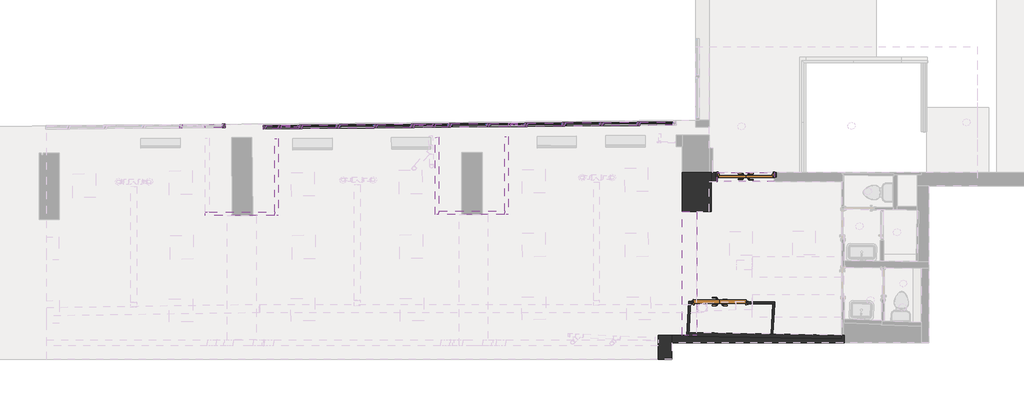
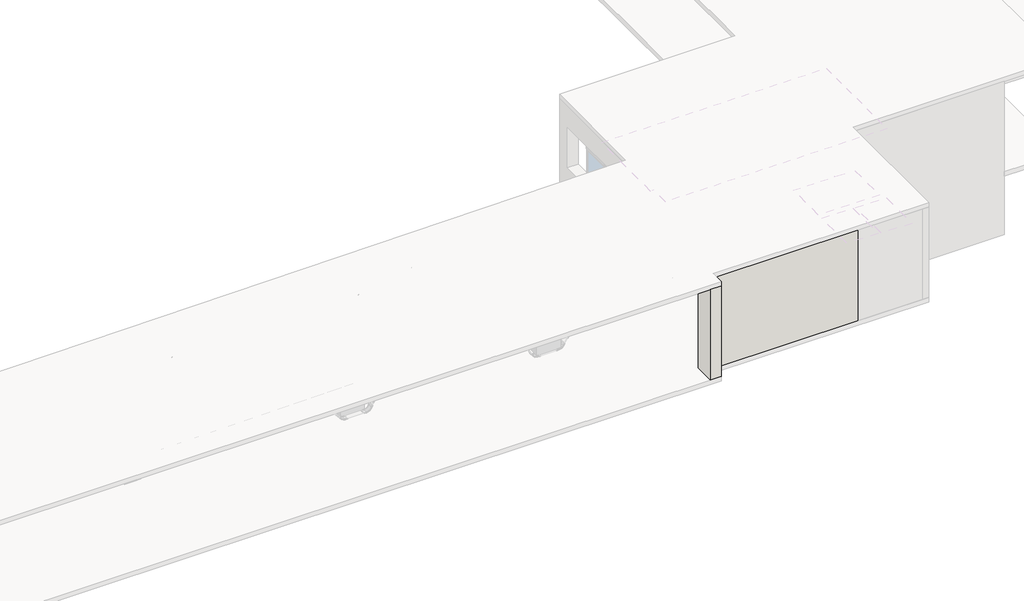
# One storey, part 2 of 8: 53 members, 16 walls, 14 windows, 2 doors.
"""IFC4 building model written with IfcOpenShell, lengths in millimetres."""

from ifc_helpers import new_model, si_unit, origin, origin_with_axes, place, context, project, spatial, polyline, outline, extrude, faceted_brep, transform, mapped, element, save
from components import door_passage_double_flush_door_passage_double_flush_2_6934cd5b, door_passage_double_flush_door_passage_double_flush_3_89525f2c, member_2f45b62e, member_f4af639a, member_0174ca3d, member_835f11f8, member_2a764257, member_7c31a16b, member_cb389cee, member_aadd5dc7, member_6a0027a9, member_22347513, member_a807efd3, member_a3112ac0, member_dbbe5297, member_24e91046, member_b640bf99, member_6078e5ce, member_e39cbc11, member_1d18c5b6, member_1c5aa84d, member_2e701646, member_dfb65aae, member_03f23a6c, member_2987343d, member_f035e081, member_cb05f148, member_f4542e0e, curtain_wall_awning_curtain_wall_awning_2_ed967b13, curtain_wall_awning_curtain_wall_awning_2_f4e35714, curtain_wall_awning_curtain_wall_awning_2_2622fc88, curtain_wall_awning_curtain_wall_awning_2_53a7fe1b, curtain_wall_awning_curtain_wall_awning_2_3c4f30b6, curtain_wall_awning_curtain_wall_awning_2_e4c29aa6, curtain_wall_awning_curtain_wall_awning_2_fe653369, curtain_wall_awning_curtain_wall_awning_2_32701f94, curtain_wall_awning_curtain_wall_awning_2_4226a363, curtain_wall_awning_curtain_wall_awning_2_41df714c, curtain_wall_awning_curtain_wall_awning_2_6c4bd446, curtain_wall_awning_curtain_wall_awning_2_f330da10, curtain_wall_awning_curtain_wall_awning_2_a3e4abaf, curtain_wall_awning_curtain_wall_awning_2_4fba72c2

model = new_model("IFC4")

# Units and contexts
model_context = context("Model", 3, world=origin())
ifc_project = project(units=[si_unit("LENGTHUNIT", "METRE", prefix="MILLI")], contexts=[model_context])

# Site, building, storey
site = spatial("IfcSite", under=ifc_project)
building = spatial("IfcBuilding", under=site)
storey = spatial("IfcBuildingStorey", under=building, Name="GFL", Elevation=0.0)

# Doors
placement = place(None, origin())
door_passage_double_flush_door_passage_double_flush_2_shape = door_passage_double_flush_door_passage_double_flush_2_6934cd5b(model_context)
element("IfcDoor", 1, ObjectType="Door-Passage-Double-Flush : Door-Passage-Double-Flush 2", at=placement, inside=storey, context=model_context, shape_type="MappedRepresentation", body=[
    mapped(door_passage_double_flush_door_passage_double_flush_2_shape, transform((-17784.9367691, 5888.4085448, 0.0), x_axis=(-1.0, 0.0, 0.0), y_axis=(0.0, -1.0, 0.0), z_axis=(0.0, 0.0, 1.0))),
])
door_passage_double_flush_door_passage_double_flush_3_shape = door_passage_double_flush_door_passage_double_flush_3_89525f2c(model_context)
element("IfcDoor", 2, ObjectType="Door-Passage-Double-Flush : Door-Passage-Double-Flush 3", at=placement, inside=storey, context=model_context, shape_type="MappedRepresentation", body=[
    mapped(door_passage_double_flush_door_passage_double_flush_3_shape, transform((-18472.9122072, 2481.1326426, 0.0), x_axis=(0.9999819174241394, -0.006013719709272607, 0.0), y_axis=(0.006013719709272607, 0.9999819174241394, 0.0), z_axis=(0.0, 0.0, 1.0))),
])

# Members
member_shape = member_2f45b62e(model_context)
element("IfcMember", 3, ObjectType="Rectangular Mullion : 2.5\" x 5\" rectangular 2", at=placement, inside=storey, context=model_context, shape_type="MappedRepresentation", body=[
    mapped(member_shape, transform((-20661.6185549, 7237.4903881, 941.5427435), x_axis=(0.0, 0.0, -1.0), y_axis=(-0.009075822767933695, 0.999958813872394, 0.0), z_axis=(0.999958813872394, 0.009075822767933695, 0.0))),
])
member_2_shape = member_f4af639a(model_context)
element("IfcMember", 4, ObjectType="Rectangular Mullion : 2.5\" x 5\" rectangular 2", at=placement, inside=storey, context=model_context, shape_type="MappedRepresentation", body=[
    mapped(member_2_shape, transform((-30180.8316749, 7151.0921385, 1519.2701837), x_axis=(-0.999958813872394, -0.009075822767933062, 0.0), y_axis=(-0.009075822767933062, 0.999958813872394, 0.0), z_axis=(0.0, 0.0, -1.0))),
])
member_3_shape = member_0174ca3d(model_context)
element("IfcMember", 5, ObjectType="Rectangular Mullion : 2.5\" x 5\" rectangular 2", at=placement, inside=storey, context=model_context, shape_type="MappedRepresentation", body=[
    mapped(member_3_shape, transform((-31599.2025384, 7182.6687257, 941.5427435), x_axis=(0.9999588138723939, 0.009075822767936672, 0.0), y_axis=(0.009075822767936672, -0.9999588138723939, 0.0), z_axis=(0.0, 0.0, -1.0))),
])
member_4_shape = member_835f11f8(model_context)
element("IfcMember", 6, ObjectType="Rectangular Mullion : 2.5\" x 5\" rectangular 2", at=placement, inside=storey, context=model_context, shape_type="MappedRepresentation", body=[
    mapped(member_4_shape, transform((-31669.0496616, 7182.0347795, 1589.1201837), x_axis=(0.0, 0.0, 1.0), y_axis=(0.009075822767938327, -0.999958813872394, 0.0), z_axis=(0.999958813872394, 0.009075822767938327, 0.0))),
])
member_5_shape = member_2a764257(model_context)
element("IfcMember", 7, ObjectType="Rectangular Mullion : 2.5\" x 5\" rectangular 2", at=placement, inside=storey, context=model_context, shape_type="MappedRepresentation", body=[
    mapped(member_5_shape, transform((-31599.2025384, 7182.6687257, 1519.2701837), x_axis=(0.9999588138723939, 0.009075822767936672, 0.0), y_axis=(0.009075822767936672, -0.9999588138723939, 0.0), z_axis=(0.0, 0.0, -1.0))),
])
member_6_shape = member_7c31a16b(model_context)
element("IfcMember", 8, ObjectType="Rectangular Mullion : 2.5\" x 5\" rectangular 2", at=placement, inside=storey, context=model_context, shape_type="MappedRepresentation", body=[
    mapped(member_6_shape, transform((-32774.1203822, 7172.0049404, 1519.2701837), x_axis=(0.9999588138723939, 0.009075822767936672, 0.0), y_axis=(0.009075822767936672, -0.9999588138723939, 0.0), z_axis=(0.0, 0.0, -1.0))),
])
member_7_shape = member_cb389cee(model_context)
element("IfcMember", 9, ObjectType="Rectangular Mullion : 2.5\" x 5\" rectangular 2", at=placement, inside=storey, context=model_context, shape_type="MappedRepresentation", body=[
    mapped(member_7_shape, transform((-30519.7054153, 7148.0164538, 1589.1201837), x_axis=(0.0, 0.0, 1.0), y_axis=(-0.00907582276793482, 0.999958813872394, 0.0), z_axis=(-0.9999588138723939, -0.009075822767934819, 0.0))),
])
member_8_shape = member_aadd5dc7(model_context)
element("IfcMember", 10, ObjectType="Rectangular Mullion : 2.5\" x 5\" rectangular 2", at=placement, inside=storey, context=model_context, shape_type="MappedRepresentation", body=[
    mapped(member_8_shape, transform((-30110.9845518, 7151.7260847, 2317.4781885), x_axis=(0.0, 0.0, 1.0), y_axis=(-0.00907582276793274, 0.999958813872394, 0.0), z_axis=(-0.9999588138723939, -0.009075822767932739, 0.0))),
])
member_9_shape = member_6a0027a9(model_context)
element("IfcMember", 11, ObjectType="Rectangular Mullion : 2.5\" x 5\" rectangular 2", at=placement, inside=storey, context=model_context, shape_type="MappedRepresentation", body=[
    mapped(member_9_shape, transform((-28642.5734764, 7165.0536723, 941.5427435), x_axis=(0.0, 0.0, -1.0), y_axis=(-0.009075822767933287, 0.999958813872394, 0.0), z_axis=(0.9999588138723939, 0.009075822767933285, 0.0))),
])
member_10_shape = member_22347513(model_context)
element("IfcMember", 12, ObjectType="Rectangular Mullion : 2.5\" x 5\" rectangular 2", at=placement, inside=storey, context=model_context, shape_type="MappedRepresentation", body=[
    mapped(member_10_shape, transform((-29626.7829389, 7156.1207938, 941.5427435), x_axis=(0.0, 0.0, -1.0), y_axis=(-0.009075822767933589, 0.999958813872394, 0.0), z_axis=(0.999958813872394, 0.009075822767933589, 0.0))),
])
element("IfcMember", 13, ObjectType="Rectangular Mullion : 2.5\" x 5\" rectangular 2", at=placement, inside=storey, context=model_context, shape_type="MappedRepresentation", body=[
    mapped(member_9_shape, transform((-29556.9358158, 7156.75474, 2317.4781885), x_axis=(0.0, 0.0, 1.0), y_axis=(-0.009075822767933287, 0.999958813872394, 0.0), z_axis=(-0.9999588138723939, -0.009075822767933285, 0.0))),
])
member_11_shape = member_a807efd3(model_context)
element("IfcMember", 14, ObjectType="Rectangular Mullion : 2.5\" x 5\" rectangular 2", at=placement, inside=storey, context=model_context, shape_type="MappedRepresentation", body=[
    mapped(member_11_shape, transform((-26655.321563, 7183.0903613, 941.5427435), x_axis=(0.0, 0.0, -1.0), y_axis=(-0.00907582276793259, 0.999958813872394, 0.0), z_axis=(0.999958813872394, 0.00907582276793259, 0.0))),
])
member_12_shape = member_a3112ac0(model_context)
element("IfcMember", 15, ObjectType="Rectangular Mullion : 2.5\" x 5\" rectangular 2", at=placement, inside=storey, context=model_context, shape_type="MappedRepresentation", body=[
    mapped(member_12_shape, transform((-27639.3147984, 7174.1594453, 941.5427435), x_axis=(0.0, 0.0, -1.0), y_axis=(-0.009075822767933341, 0.999958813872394, 0.0), z_axis=(0.9999588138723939, 0.00907582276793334, 0.0))),
])
element("IfcMember", 16, ObjectType="Rectangular Mullion : 2.5\" x 5\" rectangular 2", at=placement, inside=storey, context=model_context, shape_type="MappedRepresentation", body=[
    mapped(member_11_shape, transform((-27569.4676753, 7174.7933915, 2317.4781885), x_axis=(0.0, 0.0, 1.0), y_axis=(-0.00907582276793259, 0.999958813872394, 0.0), z_axis=(-0.999958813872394, -0.00907582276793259, 0.0))),
])
element("IfcMember", 17, ObjectType="Rectangular Mullion : 2.5\" x 5\" rectangular 2", at=placement, inside=storey, context=model_context, shape_type="MappedRepresentation", body=[
    mapped(member_12_shape, transform((-28572.7263532, 7165.6876185, 2317.4781885), x_axis=(0.0, 0.0, 1.0), y_axis=(-0.009075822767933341, 0.999958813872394, 0.0), z_axis=(-0.9999588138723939, -0.00907582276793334, 0.0))),
])
member_13_shape = member_dbbe5297(model_context)
element("IfcMember", 18, ObjectType="Rectangular Mullion : 2.5\" x 5\" rectangular 2", at=placement, inside=storey, context=model_context, shape_type="MappedRepresentation", body=[
    mapped(member_13_shape, transform((-27601.2163676, 7174.5052341, 941.5427435), x_axis=(-0.999958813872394, -0.009075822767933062, 0.0), y_axis=(-0.009075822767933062, 0.999958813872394, 0.0), z_axis=(0.0, 0.0, -1.0))),
])
element("IfcMember", 19, ObjectType="Rectangular Mullion : 2.5\" x 5\" rectangular 2", at=placement, inside=storey, context=model_context, shape_type="MappedRepresentation", body=[
    mapped(member_13_shape, transform((-28604.4750456, 7165.3994612, 941.5427435), x_axis=(-0.999958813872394, -0.009075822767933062, 0.0), y_axis=(-0.009075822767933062, 0.999958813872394, 0.0), z_axis=(0.0, 0.0, -1.0))),
])
element("IfcMember", 20, ObjectType="Rectangular Mullion : 2.5\" x 5\" rectangular 2", at=placement, inside=storey, context=model_context, shape_type="MappedRepresentation", body=[
    mapped(member_13_shape, transform((-29588.6845081, 7156.4665826, 941.5427435), x_axis=(-0.999958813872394, -0.009075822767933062, 0.0), y_axis=(-0.009075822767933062, 0.999958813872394, 0.0), z_axis=(0.0, 0.0, -1.0))),
])
element("IfcMember", 21, ObjectType="Rectangular Mullion : 2.5\" x 5\" rectangular 2", at=placement, inside=storey, context=model_context, shape_type="MappedRepresentation", body=[
    mapped(member_13_shape, transform((-21614.0793251, 7228.8456669, 941.5427435), x_axis=(-0.999958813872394, -0.009075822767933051, 0.0), y_axis=(-0.009075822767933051, 0.999958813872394, 0.0), z_axis=(0.0, 0.0, -1.0))),
])
element("IfcMember", 22, ObjectType="Rectangular Mullion : 2.5\" x 5\" rectangular 2", at=placement, inside=storey, context=model_context, shape_type="MappedRepresentation", body=[
    mapped(member_13_shape, transform((-22620.5128723, 7219.7110782, 941.5427435), x_axis=(-0.999958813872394, -0.009075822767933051, 0.0), y_axis=(-0.009075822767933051, 0.999958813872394, 0.0), z_axis=(0.0, 0.0, -1.0))),
])
element("IfcMember", 23, ObjectType="Rectangular Mullion : 2.5\" x 5\" rectangular 2", at=placement, inside=storey, context=model_context, shape_type="MappedRepresentation", body=[
    mapped(member_13_shape, transform((-23614.2469426, 7210.6917524, 941.5427435), x_axis=(-0.999958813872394, -0.009075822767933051, 0.0), y_axis=(-0.009075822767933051, 0.999958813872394, 0.0), z_axis=(0.0, 0.0, -1.0))),
])
element("IfcMember", 24, ObjectType="Rectangular Mullion : 2.5\" x 5\" rectangular 2", at=placement, inside=storey, context=model_context, shape_type="MappedRepresentation", body=[
    mapped(member_6_shape, transform((-27601.2163676, 7174.5052341, 1519.2701837), x_axis=(-0.999958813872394, -0.009075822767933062, 0.0), y_axis=(-0.009075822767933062, 0.999958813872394, 0.0), z_axis=(0.0, 0.0, -1.0))),
])
element("IfcMember", 25, ObjectType="Rectangular Mullion : 2.5\" x 5\" rectangular 2", at=placement, inside=storey, context=model_context, shape_type="MappedRepresentation", body=[
    mapped(member_6_shape, transform((-28604.4750456, 7165.3994612, 1519.2701837), x_axis=(-0.999958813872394, -0.009075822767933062, 0.0), y_axis=(-0.009075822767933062, 0.999958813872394, 0.0), z_axis=(0.0, 0.0, -1.0))),
])
element("IfcMember", 26, ObjectType="Rectangular Mullion : 2.5\" x 5\" rectangular 2", at=placement, inside=storey, context=model_context, shape_type="MappedRepresentation", body=[
    mapped(member_6_shape, transform((-29588.6845081, 7156.4665826, 1519.2701837), x_axis=(-0.999958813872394, -0.009075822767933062, 0.0), y_axis=(-0.009075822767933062, 0.999958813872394, 0.0), z_axis=(0.0, 0.0, -1.0))),
])
element("IfcMember", 27, ObjectType="Rectangular Mullion : 2.5\" x 5\" rectangular 2", at=placement, inside=storey, context=model_context, shape_type="MappedRepresentation", body=[
    mapped(member_2_shape, transform((-26585.4744398, 7183.7243076, 2317.4781885), x_axis=(0.999958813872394, 0.009075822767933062, 0.0), y_axis=(-0.009075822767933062, 0.999958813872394, 0.0), z_axis=(0.0, 0.0, 1.0))),
])
element("IfcMember", 28, ObjectType="Rectangular Mullion : 2.5\" x 5\" rectangular 2", at=placement, inside=storey, context=model_context, shape_type="MappedRepresentation", body=[
    mapped(member_3_shape, transform((-30589.5525384, 7147.3825076, 941.5427435), x_axis=(-0.999958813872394, -0.009075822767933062, 0.0), y_axis=(-0.009075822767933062, 0.999958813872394, 0.0), z_axis=(0.0, 0.0, -1.0))),
])
element("IfcMember", 29, ObjectType="Rectangular Mullion : 2.5\" x 5\" rectangular 2", at=placement, inside=storey, context=model_context, shape_type="MappedRepresentation", body=[
    mapped(member_5_shape, transform((-30589.5525384, 7147.3825076, 1519.2701837), x_axis=(-0.999958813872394, -0.009075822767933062, 0.0), y_axis=(-0.009075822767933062, 0.999958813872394, 0.0), z_axis=(0.0, 0.0, -1.0))),
])
element("IfcMember", 30, ObjectType="Rectangular Mullion : 2.5\" x 5\" rectangular 2", at=placement, inside=storey, context=model_context, shape_type="MappedRepresentation", body=[
    mapped(member_3_shape, transform((-26585.4744398, 7183.7243076, 1519.2701837), x_axis=(0.999958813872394, 0.009075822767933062, 0.0), y_axis=(-0.009075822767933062, 0.999958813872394, 0.0), z_axis=(0.0, 0.0, 1.0))),
])
member_14_shape = member_24e91046(model_context)
element("IfcMember", 31, ObjectType="Rectangular Mullion : 2.5\" x 5\" rectangular 2", at=placement, inside=storey, context=model_context, shape_type="MappedRepresentation", body=[
    mapped(member_14_shape, transform((-24085.7490785, 7206.4123063, 1519.2701837), x_axis=(-0.999958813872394, -0.009075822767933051, 0.0), y_axis=(-0.009075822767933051, 0.999958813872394, 0.0), z_axis=(0.0, 0.0, -1.0))),
])
element("IfcMember", 32, ObjectType="Rectangular Mullion : 2.5\" x 5\" rectangular 2", at=placement, inside=storey, context=model_context, shape_type="MappedRepresentation", body=[
    mapped(member_2_shape, transform((-26027.0002231, 7188.7931293, 2317.4781885), x_axis=(0.999958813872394, 0.009075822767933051, 0.0), y_axis=(-0.009075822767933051, 0.999958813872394, 0.0), z_axis=(0.0, 0.0, 1.0))),
])
member_15_shape = member_b640bf99(model_context)
element("IfcMember", 33, ObjectType="Rectangular Mullion : 2.5\" x 5\" rectangular 2", at=placement, inside=storey, context=model_context, shape_type="MappedRepresentation", body=[
    mapped(member_15_shape, transform((-26585.4744398, 7183.7243076, 2317.4781885), x_axis=(0.0, 0.0, 1.0), y_axis=(-0.009075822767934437, 0.999958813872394, 0.0), z_axis=(-0.999958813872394, -0.009075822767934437, 0.0))),
])
member_16_shape = member_6078e5ce(model_context)
element("IfcMember", 34, ObjectType="Rectangular Mullion : 2.5\" x 5\" rectangular 2", at=placement, inside=storey, context=model_context, shape_type="MappedRepresentation", body=[
    mapped(member_16_shape, transform((-24015.9019553, 7207.0462526, 2291.8788214), x_axis=(0.0, 0.0, 1.0), y_axis=(-0.009075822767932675, 0.999958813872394, 0.0), z_axis=(-0.999958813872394, -0.009075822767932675, 0.0))),
])
element("IfcMember", 35, ObjectType="Rectangular Mullion : 2.5\" x 5\" rectangular 2", at=placement, inside=storey, context=model_context, shape_type="MappedRepresentation", body=[
    mapped(member_shape, transform((-21582.3306328, 7229.1338243, 2291.8788214), x_axis=(0.0, 0.0, 1.0), y_axis=(-0.009075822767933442, 0.999958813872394, 0.0), z_axis=(-0.999958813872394, -0.009075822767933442, 0.0))),
])
member_17_shape = member_e39cbc11(model_context)
element("IfcMember", 36, ObjectType="Rectangular Mullion : 2.5\" x 5\" rectangular 2", at=placement, inside=storey, context=model_context, shape_type="MappedRepresentation", body=[
    mapped(member_17_shape, transform((-20591.7714318, 7238.1243343, 2291.8788214), x_axis=(0.0, 0.0, 1.0), y_axis=(-0.009075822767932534, 0.999958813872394, 0.0), z_axis=(-0.999958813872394, -0.009075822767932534, 0.0))),
])
member_18_shape = member_1d18c5b6(model_context)
element("IfcMember", 37, ObjectType="Rectangular Mullion : 2.5\" x 5\" rectangular 2", at=placement, inside=storey, context=model_context, shape_type="MappedRepresentation", body=[
    mapped(member_18_shape, transform((-21652.1777559, 7228.4998781, 941.5427435), x_axis=(0.0, 0.0, -1.0), y_axis=(-0.009075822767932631, 0.999958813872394, 0.0), z_axis=(0.9999588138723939, 0.00907582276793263, 0.0))),
])
member_19_shape = member_1c5aa84d(model_context)
element("IfcMember", 38, ObjectType="Rectangular Mullion : 2.5\" x 5\" rectangular 2", at=placement, inside=storey, context=model_context, shape_type="MappedRepresentation", body=[
    mapped(member_19_shape, transform((-22658.6113031, 7219.3652893, 941.5427435), x_axis=(0.0, 0.0, -1.0), y_axis=(-0.009075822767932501, 0.999958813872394, 0.0), z_axis=(0.9999588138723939, 0.0090758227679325, 0.0))),
])
element("IfcMember", 39, ObjectType="Rectangular Mullion : 2.5\" x 5\" rectangular 2", at=placement, inside=storey, context=model_context, shape_type="MappedRepresentation", body=[
    mapped(member_18_shape, transform((-22588.76418, 7219.9992356, 2291.8788214), x_axis=(0.0, 0.0, 1.0), y_axis=(-0.009075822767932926, 0.999958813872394, 0.0), z_axis=(-0.9999588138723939, -0.009075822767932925, 0.0))),
])
element("IfcMember", 40, ObjectType="Rectangular Mullion : 2.5\" x 5\" rectangular 2", at=placement, inside=storey, context=model_context, shape_type="MappedRepresentation", body=[
    mapped(member_19_shape, transform((-23582.4982502, 7210.9799098, 2291.8788214), x_axis=(0.0, 0.0, 1.0), y_axis=(-0.0090758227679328, 0.999958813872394, 0.0), z_axis=(-0.999958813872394, -0.0090758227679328, 0.0))),
])
member_20_shape = member_2e701646(model_context)
element("IfcMember", 41, ObjectType="Rectangular Mullion : 2.5\" x 5\" rectangular 2", at=placement, inside=storey, context=model_context, shape_type="MappedRepresentation", body=[
    mapped(member_20_shape, transform((-23652.3453734, 7210.3459636, 941.5427435), x_axis=(0.0, 0.0, -1.0), y_axis=(-0.009075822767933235, 0.999958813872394, 0.0), z_axis=(0.9999588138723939, 0.009075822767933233, 0.0))),
])
member_21_shape = member_dfb65aae(model_context)
element("IfcMember", 42, ObjectType="Rectangular Mullion : 2.5\" x 5\" rectangular 2", at=placement, inside=storey, context=model_context, shape_type="MappedRepresentation", body=[
    mapped(member_21_shape, transform((-24585.5318753, 7201.8761794, 1589.1201837), x_axis=(0.0, 0.0, 1.0), y_axis=(-0.009075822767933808, 0.999958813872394, 0.0), z_axis=(-0.9999588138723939, -0.009075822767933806, 0.0))),
])
member_22_shape = member_03f23a6c(model_context)
element("IfcMember", 43, ObjectType="Rectangular Mullion : 2.5\" x 5\" rectangular 2", at=placement, inside=storey, context=model_context, shape_type="MappedRepresentation", body=[
    mapped(member_22_shape, transform((-26027.0002231, 7188.7931293, 1589.1201837), x_axis=(0.0, 0.0, 1.0), y_axis=(-0.009075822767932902, 0.999958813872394, 0.0), z_axis=(-0.999958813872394, -0.009075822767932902, 0.0))),
])
member_23_shape = member_2987343d(model_context)
element("IfcMember", 44, ObjectType="Rectangular Mullion : 2.5\" x 5\" rectangular 2", at=placement, inside=storey, context=model_context, shape_type="MappedRepresentation", body=[
    mapped(member_23_shape, transform((-25607.6147158, 7192.5995546, 1589.1201837), x_axis=(0.0, 0.0, 1.0), y_axis=(-0.00907582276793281, 0.999958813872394, 0.0), z_axis=(-0.999958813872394, -0.00907582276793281, 0.0))),
])
member_24_shape = member_f035e081(model_context)
element("IfcMember", 45, ObjectType="Rectangular Mullion : 2.5\" x 5\" rectangular 2", at=placement, inside=storey, context=model_context, shape_type="MappedRepresentation", body=[
    mapped(member_24_shape, transform((-25677.4618389, 7191.9656084, 941.5427435), x_axis=(0.0, 0.0, -1.0), y_axis=(-0.0090758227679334, 0.999958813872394, 0.0), z_axis=(0.999958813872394, 0.0090758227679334, 0.0))),
])
element("IfcMember", 46, ObjectType="Rectangular Mullion : 2.5\" x 5\" rectangular 2", at=placement, inside=storey, context=model_context, shape_type="MappedRepresentation", body=[
    mapped(member_23_shape, transform((-24655.3789984, 7201.2422332, 941.5427435), x_axis=(0.0, 0.0, -1.0), y_axis=(-0.009075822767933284, 0.999958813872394, 0.0), z_axis=(0.9999588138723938, 0.009075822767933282, 0.0))),
])
member_25_shape = member_cb05f148(model_context)
element("IfcMember", 47, ObjectType="Rectangular Mullion : 2.5\" x 5\" rectangular 2", at=placement, inside=storey, context=model_context, shape_type="MappedRepresentation", body=[
    mapped(member_25_shape, transform((-21614.0793251, 7228.8456669, 1519.2701837), x_axis=(-0.999958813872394, -0.009075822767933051, 0.0), y_axis=(-0.009075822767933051, 0.999958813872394, 0.0), z_axis=(0.0, 0.0, -1.0))),
])
element("IfcMember", 48, ObjectType="Rectangular Mullion : 2.5\" x 5\" rectangular 2", at=placement, inside=storey, context=model_context, shape_type="MappedRepresentation", body=[
    mapped(member_25_shape, transform((-22620.5128723, 7219.7110782, 1519.2701837), x_axis=(-0.999958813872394, -0.009075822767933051, 0.0), y_axis=(-0.009075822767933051, 0.999958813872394, 0.0), z_axis=(0.0, 0.0, -1.0))),
])
element("IfcMember", 49, ObjectType="Rectangular Mullion : 2.5\" x 5\" rectangular 2", at=placement, inside=storey, context=model_context, shape_type="MappedRepresentation", body=[
    mapped(member_25_shape, transform((-23614.2469426, 7210.6917524, 1519.2701837), x_axis=(-0.999958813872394, -0.009075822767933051, 0.0), y_axis=(-0.009075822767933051, 0.999958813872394, 0.0), z_axis=(0.0, 0.0, -1.0))),
])
element("IfcMember", 50, ObjectType="Rectangular Mullion : 2.5\" x 5\" rectangular 2", at=placement, inside=storey, context=model_context, shape_type="MappedRepresentation", body=[
    mapped(member_25_shape, transform((-20623.5201241, 7237.8361769, 1519.2701837), x_axis=(-0.999958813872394, -0.009075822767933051, 0.0), y_axis=(-0.009075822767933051, 0.999958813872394, 0.0), z_axis=(0.0, 0.0, -1.0))),
])
element("IfcMember", 51, ObjectType="Rectangular Mullion : 2.5\" x 5\" rectangular 2", at=placement, inside=storey, context=model_context, shape_type="MappedRepresentation", body=[
    mapped(member_13_shape, transform((-20623.5201241, 7237.8361769, 941.5427435), x_axis=(-0.999958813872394, -0.009075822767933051, 0.0), y_axis=(-0.009075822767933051, 0.999958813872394, 0.0), z_axis=(0.0, 0.0, -1.0))),
])
element("IfcMember", 52, ObjectType="Rectangular Mullion : 2.5\" x 5\" rectangular 2", at=placement, inside=storey, context=model_context, shape_type="MappedRepresentation", body=[
    mapped(member_13_shape, transform((-25639.3634081, 7192.3113973, 941.5427435), x_axis=(-0.999958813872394, -0.009075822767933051, 0.0), y_axis=(-0.009075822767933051, 0.999958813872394, 0.0), z_axis=(0.0, 0.0, -1.0))),
])
element("IfcMember", 53, ObjectType="Rectangular Mullion : 2.5\" x 5\" rectangular 2", at=placement, inside=storey, context=model_context, shape_type="MappedRepresentation", body=[
    mapped(member_13_shape, transform((-24617.2805676, 7201.588022, 941.5427435), x_axis=(-0.999958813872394, -0.009075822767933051, 0.0), y_axis=(-0.009075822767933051, 0.999958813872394, 0.0), z_axis=(0.0, 0.0, -1.0))),
])
member_26_shape = member_f4542e0e(model_context)
element("IfcMember", 54, ObjectType="Rectangular Mullion : 2.5\" x 5\" rectangular 2", at=placement, inside=storey, context=model_context, shape_type="MappedRepresentation", body=[
    mapped(member_26_shape, transform((-25639.3634081, 7192.3113973, 1519.2701837), x_axis=(-0.999958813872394, -0.009075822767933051, 0.0), y_axis=(-0.009075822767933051, 0.999958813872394, 0.0), z_axis=(0.0, 0.0, -1.0))),
])
element("IfcMember", 55, ObjectType="Rectangular Mullion : 2.5\" x 5\" rectangular 2", at=placement, inside=storey, context=model_context, shape_type="MappedRepresentation", body=[
    mapped(member_26_shape, transform((-24617.2805676, 7201.588022, 1519.2701837), x_axis=(-0.999958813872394, -0.009075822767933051, 0.0), y_axis=(-0.009075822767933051, 0.999958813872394, 0.0), z_axis=(0.0, 0.0, -1.0))),
])

# Walls
element("IfcWall", 56, ObjectType="Generic - 14\"", at=placement, inside=storey, context=model_context, shape_type="Brep", body=[
    faceted_brep([(-20105.8145713, 1624.4954184, 0.0), (-20105.8145713, 1340.5491383, 0.0), (-20105.8145713, 984.9491383, 0.0), (-20105.8145713, 984.9491383, 3028.95), (-20105.8145713, 1340.5491383, 3028.95), (-20105.8145713, 1624.4954184, 3028.95), (-19750.2145713, 1624.4954184, 0.0), (-19750.2145713, 1624.4954184, 3028.95), (-19750.2145713, 1421.2954184, 3028.95), (-19750.2145713, 984.9491383, 3028.95), (-19750.2145713, 984.9491383, 0.0), (-19750.2145713, 1421.2954184, 0.0)], [[[0, 1, 2, 3, 4, 5]], [[6, 7, 8, 9, 10, 11]], [[2, 1, 0, 6, 11, 10]], [[0, 5, 7, 6]], [[3, 2, 10, 9]], [[5, 4, 3, 9, 8, 7]]]),
])
element("IfcWall", 57, ObjectType="Generic - 15\"", at=placement, inside=storey, context=model_context, shape_type="Brep", body=[
    faceted_brep([(-19466.9525663, 4902.0245008, 2457.2688434), (-19466.9525663, 1624.4954184, 2457.2688434), (-19466.9525663, 1624.4954184, 3028.95), (-19466.9525663, 4902.0245008, 3028.95), (-19085.9525663, 4902.0245008, 2457.2688434), (-19085.9525663, 4902.0245008, 3028.95), (-19085.9525663, 1624.4954184, 3028.95), (-19085.9525663, 1624.4954184, 2457.2688434), (-19292.3033124, 1624.4954184, 2457.2688434), (-19343.1730276, 1624.4954184, 2457.2688434), (-19292.3033124, 1624.4954184, 3028.95), (-19304.0439365, 1624.4954184, 3028.95), (-19343.1730276, 1624.4954184, 3028.95)], [[[0, 1, 2, 3]], [[4, 5, 6, 7]], [[1, 0, 4, 7, 8, 9]], [[0, 3, 5, 4]], [[2, 1, 9, 8, 7, 6, 10, 11, 12]], [[3, 2, 12, 11, 10, 6, 5]]]),
])
element("IfcWall", 58, ObjectType="Generic - 2\"", at=placement, inside=storey, context=model_context, shape_type="Brep", body=[
    faceted_brep([(-19296.3550703, 2517.8352609, 0.0), (-19344.0224686, 1608.2871185, 0.0), (-19344.0224686, 1608.2871185, 3028.95), (-19343.1730276, 1624.4954184, 3028.95), (-19343.1730276, 1624.4954184, 2457.2688434), (-19296.3550703, 2517.8352609, 2457.2688434), (-19293.2920882, 1605.628452, 0.0), (-19248.1629072, 2466.7445228, 0.0), (-19245.5013827, 2517.5294355, 0.0), (-19245.5013827, 2517.5294355, 2259.6275631), (-19245.5013827, 2517.5294355, 2457.2688434), (-19292.3033124, 1624.4954184, 2457.2688434), (-19292.3033124, 1624.4954184, 3028.95), (-19293.2920882, 1605.628452, 3028.95), (-19304.0439365, 1624.4954184, 3028.95)], [[[0, 1, 2, 3, 4, 5]], [[6, 7, 8, 9, 10, 11, 12, 13]], [[1, 0, 8, 7, 6]], [[2, 1, 6, 13]], [[4, 11, 10, 5]], [[11, 4, 3, 14, 12]], [[8, 0, 5, 10, 9]], [[2, 13, 12, 14, 3]]]),
])
element("IfcWall", 59, ObjectType="Generic - 2\"", at=placement, inside=storey, context=model_context, shape_type="SweptSolid", body=[
    extrude(outline(polyline([(-17070.9385364, 2453.651069), (-17020.0848489, 2453.3452436), (-17061.9257842, 1654.9726376), (-17112.7509001, 1655.8236422), (-17070.9385364, 2453.651069)])), origin_with_axes(), (0.0, 0.0, 1.0), 3028.95),
])
element("IfcWall", 60, ObjectType="Generic - 2\"", at=placement, inside=storey, context=model_context, shape_type="Brep", body=[
    faceted_brep([(-17018.9068351, 2453.3381592, 0.0), (-17018.9068351, 2453.3381592, 2259.6275631), (-19248.1629072, 2466.7445228, 2259.6275631), (-19248.1629072, 2466.7445228, 0.0), (-19203.2635637, 2466.4745059, 0.0), (-19203.2635637, 2466.4745059, 2012.95), (-17742.7899734, 2457.6914683, 2012.95), (-17742.7899734, 2457.6914683, 0.0), (-17070.9385364, 2453.651069, 0.0), (-17020.0848489, 2453.3452436, 0.0), (-17018.6013381, 2504.1372406, 2259.6275631), (-17018.6013381, 2504.1372406, 0.0), (-17742.4844764, 2508.4905497, 0.0), (-17742.4844764, 2508.4905497, 2012.95), (-19202.9580668, 2517.2735873, 2012.95), (-19202.9580668, 2517.2735873, 0.0), (-19245.5013827, 2517.5294355, 0.0), (-19245.5013827, 2517.5294355, 2259.6275631)], [[[0, 1, 2, 3, 4, 5, 6, 7, 8, 9]], [[10, 11, 12, 13, 14, 15, 16, 17]], [[11, 0, 9, 8, 7, 12]], [[3, 16, 15, 4]], [[1, 0, 11, 10]], [[2, 1, 10, 17]], [[6, 13, 12, 7]], [[13, 6, 5, 14]], [[14, 5, 4, 15]], [[16, 3, 2, 17]]]),
])
element("IfcWall", 61, ObjectType="Generic - 4\"", at=placement, inside=storey, context=model_context, shape_type="Brep", body=[
    faceted_brep([(-19304.6062943, 1590.9093495, 0.0), (-15241.7145713, 1522.8811774, 0.0), (-15241.7145713, 1522.8811774, 3028.95), (-19304.6062943, 1590.9093495, 3028.95), (-19302.9053645, 1692.4951105, 0.0), (-19302.9053645, 1692.4951105, 3028.95), (-17112.7509001, 1655.8236422, 3028.95), (-17061.9257842, 1654.9726376, 3028.95), (-15241.7145713, 1624.4954184, 3028.95), (-15241.7145713, 1624.4954184, 0.0), (-17061.9257842, 1654.9726376, 0.0), (-17112.7509001, 1655.8236422, 0.0), (-19304.0439365, 1624.4954184, 0.0), (-19304.0439365, 1624.4954184, 3028.95)], [[[0, 1, 2, 3]], [[4, 5, 6, 7, 8, 9, 10, 11]], [[1, 0, 12, 4, 11, 10, 9]], [[0, 3, 13, 5, 4, 12]], [[2, 1, 9, 8]], [[3, 2, 8, 7, 6, 5, 13]]]),
])
element("IfcWall", 62, ObjectType="Generic - 4\"", at=placement, inside=storey, context=model_context, shape_type="Brep", body=[
    faceted_brep([(-24184.594848, 6894.3578471, 1589.1201837), (-24184.594848, 4824.8409599, 1589.1201837), (-24184.594848, 4824.8409599, 3028.95), (-24184.594848, 4926.4409599, 3028.95), (-24184.594848, 6894.3578471, 3028.95), (-24082.994848, 6895.2799886, 1589.1201837), (-24082.994848, 6895.2799886, 3028.95), (-24082.994848, 4824.8409599, 3028.95), (-24082.994848, 4824.8409599, 1589.1201837)], [[[0, 1, 2, 3, 4]], [[5, 6, 7, 8]], [[1, 0, 5, 8]], [[2, 1, 8, 7]], [[0, 4, 6, 5]], [[4, 3, 2, 7, 6]]]),
])
element("IfcWall", 63, ObjectType="Generic - 4\"", at=placement, inside=storey, context=model_context, shape_type="Brep", body=[
    faceted_brep([(-26026.5019679, 6877.6403359, 1589.1201837), (-26026.5019679, 4824.8409599, 1589.1201837), (-26026.5019679, 4824.8409599, 3028.95), (-26026.5019679, 6877.6403359, 3028.95), (-25924.9019679, 6878.5624775, 1589.1201837), (-25924.9019679, 6878.5624775, 3028.95), (-25924.9019679, 4926.4409599, 3028.95), (-25924.9019679, 4824.8409599, 3028.95), (-25924.9019679, 4824.8409599, 1589.1201837), (-26024.1763308, 6877.6614439, 1589.1201837)], [[[0, 1, 2, 3]], [[4, 5, 6, 7, 8]], [[1, 0, 9, 4, 8]], [[2, 1, 8, 7]], [[0, 3, 5, 4, 9]], [[3, 2, 7, 6, 5]]]),
])
element("IfcWall", 64, ObjectType="Generic - 4\"", at=placement, inside=storey, context=model_context, shape_type="Brep", body=[
    faceted_brep([(-25924.9019679, 4824.8409599, 1536.9976562), (-24184.594848, 4824.8409599, 1536.9976562), (-24184.594848, 4824.8409599, 1589.1201837), (-24184.594848, 4824.8409599, 3028.95), (-25924.9019679, 4824.8409599, 3028.95), (-25924.9019679, 4824.8409599, 1589.1201837), (-25924.9019679, 4926.4409599, 1536.9976562), (-25924.9019679, 4926.4409599, 3028.95), (-24184.594848, 4926.4409599, 3028.95), (-24184.594848, 4926.4409599, 1536.9976562)], [[[0, 1, 2, 3, 4, 5]], [[6, 7, 8, 9]], [[1, 0, 6, 9]], [[3, 2, 1, 9, 8]], [[0, 5, 4, 7, 6]], [[4, 3, 8, 7]]]),
])
element("IfcWall", 65, ObjectType="Generic - 4\"", at=placement, inside=storey, context=model_context, shape_type="Brep", body=[
    faceted_brep([(-30282.427881, 6839.0127157, 1589.1201837), (-30282.427881, 4901.0286619, 1589.1201837), (-30282.427881, 4799.4286619, 1589.1201837), (-30282.427881, 4799.4286619, 3028.95), (-30282.427881, 4901.0286619, 3028.95), (-30282.427881, 6839.0127157, 3028.95), (-30180.827881, 6839.9348573, 1589.1201837), (-30180.827881, 6839.9348573, 3028.95), (-30180.827881, 4799.4286619, 3028.95), (-30180.827881, 4799.4286619, 1589.1201837)], [[[0, 1, 2, 3, 4, 5]], [[6, 7, 8, 9]], [[2, 1, 0, 6, 9]], [[3, 2, 9, 8]], [[0, 5, 7, 6]], [[5, 4, 3, 8, 7]]]),
])
element("IfcWall", 66, ObjectType="Generic - 4\"", at=placement, inside=storey, context=model_context, shape_type="Brep", body=[
    faceted_brep([(-32118.4796389, 4799.4286619, 1589.1201837), (-30282.427881, 4799.4286619, 1589.1201837), (-30282.427881, 4799.4286619, 3028.95), (-32118.4796389, 4799.4286619, 3028.95), (-32118.4796389, 4901.0286619, 1589.1201837), (-32118.4796389, 4901.0286619, 3028.95), (-32016.8796389, 4901.0286619, 3028.95), (-30282.427881, 4901.0286619, 3028.95), (-30282.427881, 4901.0286619, 1589.1201837), (-32016.8796389, 4901.0286619, 1589.1201837)], [[[0, 1, 2, 3]], [[4, 5, 6, 7, 8, 9]], [[1, 0, 4, 9, 8]], [[2, 1, 8, 7]], [[0, 3, 5, 4]], [[3, 2, 7, 6, 5]]]),
])
element("IfcWall", 67, ObjectType="Generic - 5\"", at=placement, inside=storey, context=model_context, shape_type="SweptSolid", body=[
    extrude(outline(polyline([(-18597.7367691, 5818.5585448), (-18597.7367691, 5945.5585448), (-18540.5867691, 5945.5585448), (-18540.5867691, 5818.5585448), (-18597.7367691, 5818.5585448)])), origin_with_axes(), (0.0, 0.0, 1.0), 2006.6),
    extrude(outline(polyline([(-16972.1367691, 5945.5585448), (-16972.1367691, 5818.5585448), (-17029.2867691, 5818.5585448), (-17029.2867691, 5945.5585448), (-16972.1367691, 5945.5585448)])), origin_with_axes(), (0.0, 0.0, 1.0), 2006.6),
])
element("IfcWall", 68, ObjectType="Generic - 8\"", at=placement, inside=storey, context=model_context, shape_type="Brep", body=[
    faceted_brep([(-19750.2145713, 1421.2954184, 0.0), (-15165.5145713, 1421.2954184, 0.0), (-15165.5145713, 1421.2954184, 3028.95), (-19750.2145713, 1421.2954184, 3028.95), (-15165.5145713, 1624.4954184, 3028.95), (-15165.5145713, 1624.4954184, 0.0), (-15190.9145713, 1624.4954184, 0.0), (-15241.7145713, 1624.4954184, 0.0), (-15241.7145713, 1624.4954184, 3028.95), (-15190.9145713, 1624.4954184, 3028.95), (-19750.2145713, 1624.4954184, 0.0), (-19750.2145713, 1624.4954184, 3028.95), (-19466.9525663, 1624.4954184, 3028.95), (-19304.0439365, 1624.4954184, 3028.95), (-19304.0439365, 1624.4954184, 0.0), (-19304.6062943, 1590.9093495, 0.0), (-15241.7145713, 1522.8811774, 0.0), (-15241.7145713, 1522.8811774, 3028.95), (-19304.6062943, 1590.9093495, 3028.95)], [[[0, 1, 2, 3]], [[4, 5, 6, 7, 8, 9]], [[10, 11, 12, 13, 14]], [[1, 0, 10, 14, 15, 16, 7, 6, 5]], [[0, 3, 11, 10]], [[2, 1, 5, 4]], [[17, 16, 15, 18]], [[18, 15, 14, 13]], [[16, 17, 8, 7]], [[3, 2, 4, 9, 8, 17, 18, 13, 12, 11]]]),
])
element("IfcWall", 69, ObjectType="Generic - 9.5\"", at=placement, inside=storey, context=model_context, shape_type="Brep", body=[
    faceted_brep([(-18704.9525663, 5704.2585448, 0.0), (-18540.5867691, 5704.2585448, 0.0), (-18540.5867691, 5704.2585448, 2012.95), (-18546.9367691, 5704.2585448, 2012.95), (-18546.9367691, 5704.2585448, 3028.95), (-18704.9525663, 5704.2585448, 3028.95), (-18704.9525663, 5945.5585448, 0.0), (-18704.9525663, 5945.5585448, 3028.95), (-18654.1525663, 5945.5585448, 3028.95), (-18546.9367691, 5945.5585448, 3028.95), (-18546.9367691, 5945.5585448, 2012.95), (-18540.5867691, 5945.5585448, 2012.95), (-18540.5867691, 5945.5585448, 2006.6), (-18597.7367691, 5945.5585448, 2006.6), (-18597.7367691, 5945.5585448, 0.0), (-18654.1525663, 5945.5585448, 0.0), (-18597.7367691, 5818.5585448, 0.0), (-18540.5867691, 5818.5585448, 0.0), (-18540.5867691, 5818.5585448, 2006.6), (-18597.7367691, 5818.5585448, 2006.6)], [[[0, 1, 2, 3, 4, 5]], [[6, 7, 8, 9, 10, 11, 12, 13, 14, 15]], [[1, 0, 6, 15, 14, 16, 17]], [[1, 17, 18, 12, 11, 2]], [[0, 5, 7, 6]], [[16, 19, 18, 17]], [[19, 13, 12, 18]], [[19, 16, 14, 13]], [[3, 10, 9, 4]], [[10, 3, 2, 11]], [[7, 5, 4, 9, 8]]]),
])
element("IfcWall", 70, ObjectType="Generic - 9.5\"", at=placement, inside=storey, context=model_context, shape_type="Brep", body=[
    faceted_brep([(-18546.9367691, 5704.2585448, 2012.95), (-18540.5867691, 5704.2585448, 2012.95), (-17029.2867691, 5704.2585448, 2012.95), (-17022.9367691, 5704.2585448, 2012.95), (-17022.9367691, 5704.2585448, 3028.95), (-18546.9367691, 5704.2585448, 3028.95), (-18546.9367691, 5945.5585448, 2012.95), (-18546.9367691, 5945.5585448, 3028.95), (-17022.9367691, 5945.5585448, 3028.95), (-17022.9367691, 5945.5585448, 2012.95), (-17029.2867691, 5945.5585448, 2012.95), (-18540.5867691, 5945.5585448, 2012.95)], [[[0, 1, 2, 3, 4, 5]], [[6, 7, 8, 9, 10, 11]], [[3, 2, 1, 0, 6, 11, 10, 9]], [[4, 3, 9, 8]], [[0, 5, 7, 6]], [[5, 4, 8, 7]]]),
])
element("IfcWall", 71, ObjectType="Generic -26\"", at=placement, inside=storey, context=model_context, shape_type="Brep", body=[
    faceted_brep([(-19466.9525663, 5945.5585448, 0.0), (-19466.9525663, 4902.0245008, 0.0), (-19466.9525663, 4902.0245008, 3028.95), (-19466.9525663, 5945.5585448, 3028.95), (-18704.9525663, 5945.5585448, 0.0), (-18704.9525663, 5945.5585448, 3028.95), (-18704.9525663, 5704.2585448, 3028.95), (-18704.9525663, 4902.0245008, 3028.95), (-18704.9525663, 4902.0245008, 0.0), (-18704.9525663, 5704.2585448, 0.0), (-18755.7525663, 5945.5585448, 0.0), (-18755.7525663, 5945.5585448, 3028.95)], [[[0, 1, 2, 3]], [[4, 5, 6, 7, 8, 9]], [[1, 0, 10, 4, 9, 8]], [[2, 1, 8, 7]], [[0, 3, 11, 5, 4, 10]], [[3, 2, 7, 6, 5, 11]]]),
])

# Windows
curtain_wall_awning_curtain_wall_awning_2_shape = curtain_wall_awning_curtain_wall_awning_2_ed967b13(model_context)
element("IfcWindow", 72, ObjectType="Curtain Wall-Awning : Curtain Wall-Awning 2", at=placement, inside=storey, context=model_context, shape_type="MappedRepresentation", body=[
    mapped(curtain_wall_awning_curtain_wall_awning_2_shape, transform((-29868.8837453, 7153.9234392, 1519.2701837), x_axis=(-0.999958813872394, -0.009075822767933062, 0.0), y_axis=(0.009075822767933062, -0.999958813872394, 0.0), z_axis=(0.0, 0.0, 1.0))),
])
curtain_wall_awning_curtain_wall_awning_2_2_shape = curtain_wall_awning_curtain_wall_awning_2_f4e35714(model_context)
element("IfcWindow", 73, ObjectType="Curtain Wall-Awning : Curtain Wall-Awning 2", at=placement, inside=storey, context=model_context, shape_type="MappedRepresentation", body=[
    mapped(curtain_wall_awning_curtain_wall_awning_2_2_shape, transform((-30073.2441771, 7152.0686238, 1011.3927435), x_axis=(-0.999958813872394, -0.009075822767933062, 0.0), y_axis=(0.009075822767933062, -0.999958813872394, 0.0), z_axis=(0.0, 0.0, 1.0))),
])
curtain_wall_awning_curtain_wall_awning_2_3_shape = curtain_wall_awning_curtain_wall_awning_2_2622fc88(model_context)
element("IfcWindow", 74, ObjectType="Curtain Wall-Awning : Curtain Wall-Awning 2", at=placement, inside=storey, context=model_context, shape_type="MappedRepresentation", body=[
    mapped(curtain_wall_awning_curtain_wall_awning_2_3_shape, transform((-29099.7546461, 7160.9042061, 1011.3927435), x_axis=(-0.999958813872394, -0.009075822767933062, 0.0), y_axis=(0.009075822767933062, -0.999958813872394, 0.0), z_axis=(0.0, 0.0, 1.0))),
])
curtain_wall_awning_curtain_wall_awning_2_4_shape = curtain_wall_awning_curtain_wall_awning_2_53a7fe1b(model_context)
element("IfcWindow", 75, ObjectType="Curtain Wall-Awning : Curtain Wall-Awning 2", at=placement, inside=storey, context=model_context, shape_type="MappedRepresentation", body=[
    mapped(curtain_wall_awning_curtain_wall_awning_2_4_shape, transform((-28106.0205758, 7169.9235319, 1011.3927435), x_axis=(-0.999958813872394, -0.009075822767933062, 0.0), y_axis=(0.009075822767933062, -0.999958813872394, 0.0), z_axis=(0.0, 0.0, 1.0))),
])
curtain_wall_awning_curtain_wall_awning_2_5_shape = curtain_wall_awning_curtain_wall_awning_2_3c4f30b6(model_context)
element("IfcWindow", 76, ObjectType="Curtain Wall-Awning : Curtain Wall-Awning 2", at=placement, inside=storey, context=model_context, shape_type="MappedRepresentation", body=[
    mapped(curtain_wall_awning_curtain_wall_awning_2_5_shape, transform((-27112.3946191, 7178.9418764, 1011.3927435), x_axis=(-0.999958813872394, -0.009075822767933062, 0.0), y_axis=(0.009075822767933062, -0.999958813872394, 0.0), z_axis=(0.0, 0.0, 1.0))),
])
curtain_wall_awning_curtain_wall_awning_2_6_shape = curtain_wall_awning_curtain_wall_awning_2_e4c29aa6(model_context)
element("IfcWindow", 77, ObjectType="Curtain Wall-Awning : Curtain Wall-Awning 2", at=placement, inside=storey, context=model_context, shape_type="MappedRepresentation", body=[
    mapped(curtain_wall_awning_curtain_wall_awning_2_6_shape, transform((-20147.0646861, 7242.1605802, 1011.3927435), x_axis=(-0.999958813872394, -0.009075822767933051, 0.0), y_axis=(0.009075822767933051, -0.999958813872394, 0.0), z_axis=(0.0, 0.0, 1.0))),
])
curtain_wall_awning_curtain_wall_awning_2_7_shape = curtain_wall_awning_curtain_wall_awning_2_fe653369(model_context)
element("IfcWindow", 78, ObjectType="Curtain Wall-Awning : Curtain Wall-Awning 2", at=placement, inside=storey, context=model_context, shape_type="MappedRepresentation", body=[
    mapped(curtain_wall_awning_curtain_wall_awning_2_7_shape, transform((-22120.470968, 7224.2495568, 1011.3927435), x_axis=(-0.999958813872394, -0.009075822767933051, 0.0), y_axis=(0.009075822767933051, -0.999958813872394, 0.0), z_axis=(0.0, 0.0, 1.0))),
])
curtain_wall_awning_curtain_wall_awning_2_8_shape = curtain_wall_awning_curtain_wall_awning_2_32701f94(model_context)
element("IfcWindow", 79, ObjectType="Curtain Wall-Awning : Curtain Wall-Awning 2", at=placement, inside=storey, context=model_context, shape_type="MappedRepresentation", body=[
    mapped(curtain_wall_awning_curtain_wall_awning_2_8_shape, transform((-23120.5547767, 7215.1725996, 1011.3927435), x_axis=(-0.999958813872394, -0.009075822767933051, 0.0), y_axis=(0.009075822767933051, -0.999958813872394, 0.0), z_axis=(0.0, 0.0, 1.0))),
])
curtain_wall_awning_curtain_wall_awning_2_9_shape = curtain_wall_awning_curtain_wall_awning_2_4226a363(model_context)
element("IfcWindow", 80, ObjectType="Curtain Wall-Awning : Curtain Wall-Awning 2", at=placement, inside=storey, context=model_context, shape_type="MappedRepresentation", body=[
    mapped(curtain_wall_awning_curtain_wall_awning_2_9_shape, transform((-24118.9386243, 7206.1110715, 1011.3927435), x_axis=(-0.999958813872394, -0.009075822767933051, 0.0), y_axis=(0.009075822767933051, -0.999958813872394, 0.0), z_axis=(0.0, 0.0, 1.0))),
])
curtain_wall_awning_curtain_wall_awning_2_10_shape = curtain_wall_awning_curtain_wall_awning_2_41df714c(model_context)
element("IfcWindow", 81, ObjectType="Curtain Wall-Awning : Curtain Wall-Awning 2", at=placement, inside=storey, context=model_context, shape_type="MappedRepresentation", body=[
    mapped(curtain_wall_awning_curtain_wall_awning_2_10_shape, transform((-21121.9745939, 7233.3121062, 1011.3927435), x_axis=(-0.999958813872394, -0.009075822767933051, 0.0), y_axis=(0.009075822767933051, -0.999958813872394, 0.0), z_axis=(0.0, 0.0, 1.0))),
])
curtain_wall_awning_curtain_wall_awning_2_11_shape = curtain_wall_awning_curtain_wall_awning_2_6c4bd446(model_context)
element("IfcWindow", 82, ObjectType="Curtain Wall-Awning : Curtain Wall-Awning 2", at=placement, inside=storey, context=model_context, shape_type="MappedRepresentation", body=[
    mapped(curtain_wall_awning_curtain_wall_awning_2_11_shape, transform((-26131.4681394, 7187.844958, 1011.3927435), x_axis=(-0.999958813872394, -0.009075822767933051, 0.0), y_axis=(0.009075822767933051, -0.999958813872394, 0.0), z_axis=(0.0, 0.0, 1.0))),
])
curtain_wall_awning_curtain_wall_awning_2_12_shape = curtain_wall_awning_curtain_wall_awning_2_f330da10(model_context)
element("IfcWindow", 83, ObjectType="Curtain Wall-Awning : Curtain Wall-Awning 2", at=placement, inside=storey, context=model_context, shape_type="MappedRepresentation", body=[
    mapped(curtain_wall_awning_curtain_wall_awning_2_12_shape, transform((-25131.4968571, 7196.9208939, 1011.3927435), x_axis=(-0.999958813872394, -0.009075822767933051, 0.0), y_axis=(0.009075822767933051, -0.999958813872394, 0.0), z_axis=(0.0, 0.0, 1.0))),
])
curtain_wall_awning_curtain_wall_awning_2_13_shape = curtain_wall_awning_curtain_wall_awning_2_a3e4abaf(model_context)
element("IfcWindow", 84, ObjectType="Curtain Wall-Awning : Curtain Wall-Awning 2", at=placement, inside=storey, context=model_context, shape_type="MappedRepresentation", body=[
    mapped(curtain_wall_awning_curtain_wall_awning_2_13_shape, transform((-26341.160893, 7185.9417453, 1519.2701837), x_axis=(-0.999958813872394, -0.009075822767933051, 0.0), y_axis=(0.009075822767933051, -0.999958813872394, 0.0), z_axis=(0.0, 0.0, 1.0))),
])
curtain_wall_awning_curtain_wall_awning_2_14_shape = curtain_wall_awning_curtain_wall_awning_2_4fba72c2(model_context)
element("IfcWindow", 85, ObjectType="Curtain Wall-Awning : Curtain Wall-Awning 2", at=placement, inside=storey, context=model_context, shape_type="MappedRepresentation", body=[
    mapped(curtain_wall_awning_curtain_wall_awning_2_14_shape, transform((-23834.1236644, 7208.6961081, 1519.2701837), x_axis=(-0.999958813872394, -0.009075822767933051, 0.0), y_axis=(0.009075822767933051, -0.999958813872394, 0.0), z_axis=(0.0, 0.0, 1.0))),
])

save(model, "model.ifc")
